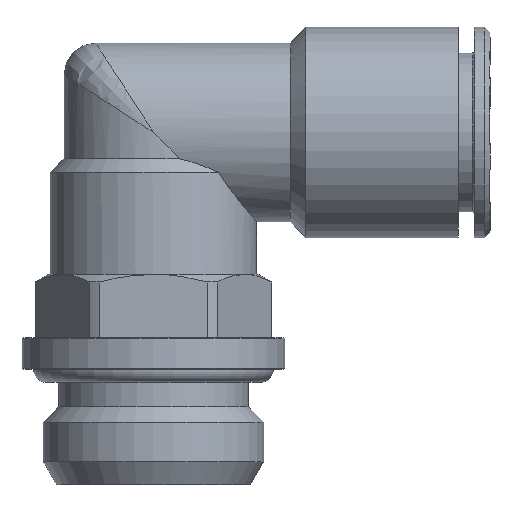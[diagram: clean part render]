
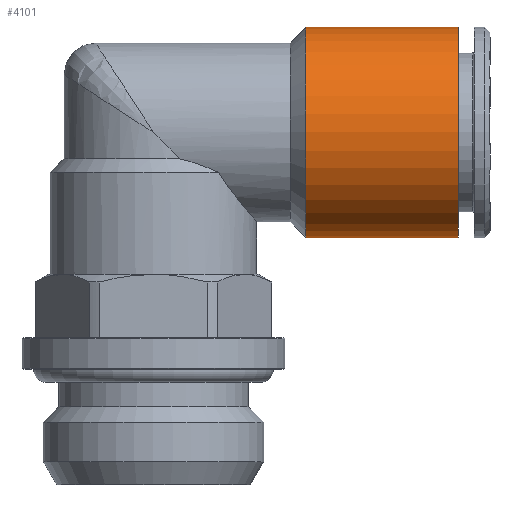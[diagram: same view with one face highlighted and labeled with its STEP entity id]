
A CAD part, front view. The second image highlights one B-rep face of the part: STEP entity #4101.
In plain terms, the highlighted cylindrical face has radius 10 mm (diameter 20 mm), a full revolution.
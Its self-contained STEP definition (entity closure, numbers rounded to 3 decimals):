
#832=CYLINDRICAL_SURFACE('',#4001,10.);
#1032=ORIENTED_EDGE('',*,*,#1343,.F.);
#1033=ORIENTED_EDGE('',*,*,#1344,.T.);
#1138=CIRCLE('',#4000,10.);
#1139=CIRCLE('',#4002,10.);
#1231=VERTEX_POINT('',#3356);
#1232=VERTEX_POINT('',#3359);
#1343=EDGE_CURVE('',#1231,#1231,#1138,.T.);
#1344=EDGE_CURVE('',#1232,#1232,#1139,.T.);
#1474=EDGE_LOOP('',(#1032));
#1475=EDGE_LOOP('',(#1033));
#1608=FACE_BOUND('',#1474,.T.);
#1609=FACE_BOUND('',#1475,.T.);
#2532=DIRECTION('',(1.,0.,0.));
#2533=DIRECTION('',(0.,10.,0.));
#2534=DIRECTION('',(-1.,0.,0.));
#2535=DIRECTION('',(0.,1.,0.));
#2536=DIRECTION('',(1.,0.,0.));
#2537=DIRECTION('',(0.,10.,0.));
#3356=CARTESIAN_POINT('',(29.,23.5,0.));
#3357=CARTESIAN_POINT('',(29.,13.5,0.));
#3358=CARTESIAN_POINT('',(29.,13.5,0.));
#3359=CARTESIAN_POINT('',(14.5,23.5,0.));
#3360=CARTESIAN_POINT('',(14.5,13.5,0.));
#4000=AXIS2_PLACEMENT_3D('',#3357,#2532,#2533);
#4001=AXIS2_PLACEMENT_3D('',#3358,#2534,#2535);
#4002=AXIS2_PLACEMENT_3D('',#3360,#2536,#2537);
#4101=ADVANCED_FACE('',(#1608,#1609),#832,.T.);
